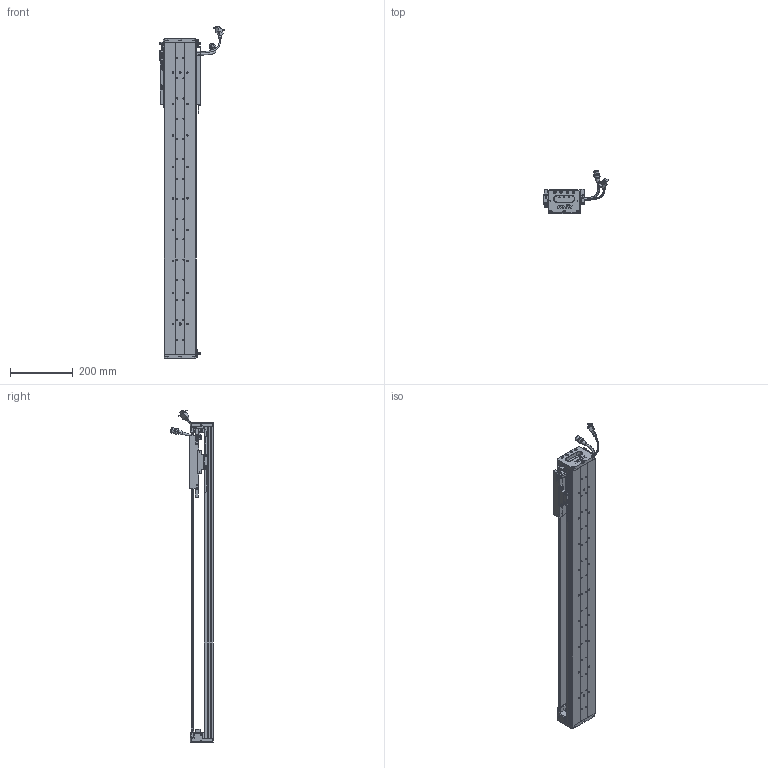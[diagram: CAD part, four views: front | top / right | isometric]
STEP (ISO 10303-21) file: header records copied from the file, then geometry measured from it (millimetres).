
FILE_DESCRIPTION (( 'STEP AP203' ), '1' );
FILE_NAME ('Z2-RY100D-1-L500-B-K.SLDASM_0750.step', '2021-05-17T02:35:32', ( '盈信电脑' ), ( '东莞市道滘镇水果街19号' ), 'SwSTEP 2.0', 'SolidWorks 2016', '' );
FILE_SCHEMA (( 'CONFIG_CONTROL_DESIGN' ));
Length unit declared in the file: millimetre
Products named in the file (36): SCREW-M1.6-2; SEAL; Z-RY100D覜茼んえ; 100-Z-臏賑輸盄裔(21遴); 140雄赽晤鎢ん堤盄; SCREW-M1.7; SCALE-Part-2; LABEL; Z-100詩湍傷裔啣; SCALE-Part-1; PBU_SHEET; SEAL-Part-1; Z2-RY100D-500-倰第菁釱_0750; Z2-RY100D-1-L500-B-K.SLDASM_0750; SCREW-M1.6-3; Z-RY100D詩湍狟揤裔; HARNESS-Part-2; LABEL-Part-1; Z2-RY100-L500詩湍90mm遵_0750; HARNESS; 覜茼ん672; HARNESS-Part-1; 140蚥薯蝶輸; SCREW-M1.6-1; SHIELDPLATE; COVER; 080黍杅芛假蚾釱21遴; SCREW-M1.6; Z-RY100D詩湍奻揤裔; HOLDER0; Z2-RY100铝滑块（21款）; 榋妏寠巭燃_暯_M2_2; COVER-Part-1; PSLH080_PSLF2; SCALE; SCREW-M1.7-1
Assembly tree (43 placements, depth 4):
  Z2-RY100D-1-L500-B-K.SLDASM_0750
    Z2-RY100D-500-倰第菁釱_0750
    Z2-RY100铝滑块（21款）
    PSLH080_PSLF2
      SCALE
        SCALE-Part-1
        SCALE-Part-2
      HARNESS
        HARNESS-Part-1
        HARNESS-Part-2
      LABEL
        LABEL-Part-1
      COVER
        COVER-Part-1
      SEAL
        SEAL-Part-1
      榋妏寠巭燃_暯_M2_2
      SHIELDPLATE
      SCREW-M1.7
      SCREW-M1.7-1
      PBU_SHEET
      SCREW-M1.6
      SCREW-M1.6-1
      SCREW-M1.6-2
      SCREW-M1.6-3
      HOLDER0
    080黍杅芛假蚾釱21遴
    Z-100詩湍傷裔啣  x2
    140蚥薯蝶輸  x2
    覜茼ん672  x3
    Z-RY100D覜茼んえ  x3
    100-Z-臏賑輸盄裔(21遴)
    140雄赽晤鎢ん堤盄
    Z2-RY100-L500詩湍90mm遵_0750
    Z-RY100D詩湍狟揤裔  x2
    Z-RY100D詩湍奻揤裔  x2
Bounding box: 205.84 x 136.11 x 1055.43 mm (x, y, z)
Volume: 2210198.8 mm3; surface area: 852961.5 mm2
Topology: 38 solids, 38 shells, 2536 faces, 6645 edges, 4204 vertices
Faces by surface type: plane 1114, cylinder 1082, cone 218, torus 69, bspline 53
Entity records: 68593 total; most frequent: CARTESIAN_POINT 14496, DIRECTION 10821, ORIENTED_EDGE 10186, EDGE_CURVE 5093, AXIS2_PLACEMENT_3D 3965, VERTEX_POINT 3272, VECTOR 2891, LINE 2891
